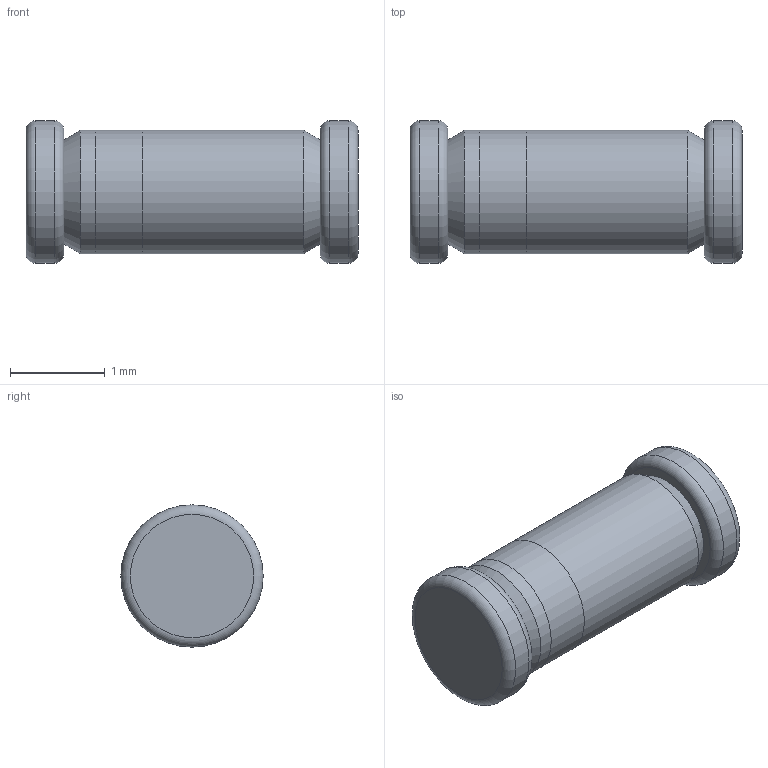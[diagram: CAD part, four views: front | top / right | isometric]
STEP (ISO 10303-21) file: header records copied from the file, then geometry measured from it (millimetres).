
FILE_DESCRIPTION(/* description */ ('Unknown'),/* implementation_level */ '2;1');
FILE_NAME(/* name */ 'MINI-MELF',/* time_stamp */ '2023-10-06T15:49:17+08:00',/* author */ ('Unknown'),/* organization */ ('Unknown'),/* preprocessor_version */ 'ST-DEVELOPER v18.104',/* originating_system */ 'Solid Edge',/* authorisation */ 'Unknown');
FILE_SCHEMA (('AUTOMOTIVE_DESIGN {1 0 10303 214 3 1 1}'));
Length unit declared in the file: millimetre
Products named in the file (1): MINI-MELF
Bounding box: 3.5 x 1.5 x 1.5 mm (x, y, z)
Volume: 4.9 mm3; surface area: 28.3 mm2
Topology: 5 solids, 5 shells, 21 faces, 30 edges, 19 vertices
Faces by surface type: plane 10, cylinder 5, torus 4, cone 2
Full cylindrical faces by diameter (mm): 1.3 x3, 1.5 x2
Entity records: 425 total; most frequent: DIRECTION 76, CARTESIAN_POINT 54, AXIS2_PLACEMENT_3D 38, ORIENTED_EDGE 32, EDGE_LOOP 32, FACE_BOUND 32, ADVANCED_FACE 21, EDGE_CURVE 16
